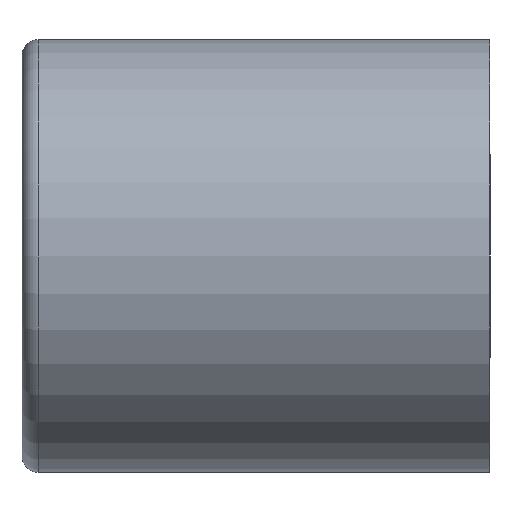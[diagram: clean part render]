
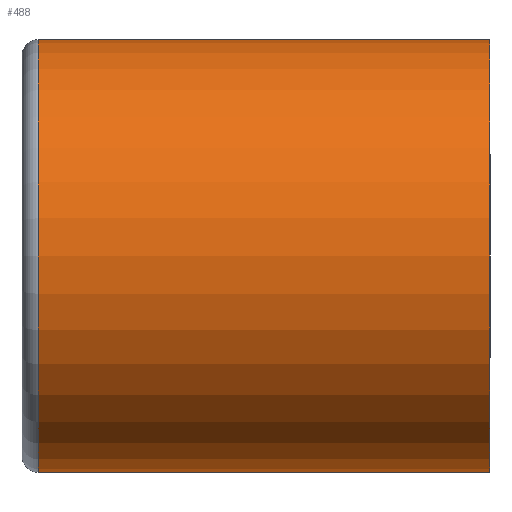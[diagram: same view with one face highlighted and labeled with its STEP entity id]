
A CAD part, front view. The second image highlights one B-rep face of the part: STEP entity #488.
In plain terms, the highlighted cylindrical face has radius 18.5 mm (diameter 37 mm), a partial arc.
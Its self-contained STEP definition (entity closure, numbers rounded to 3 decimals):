
#15 = EDGE_LOOP ( 'NONE', ( #415, #416, #417, #414 ) ) ;
#23 = VERTEX_POINT ( 'NONE', #1551 ) ;
#24 = VERTEX_POINT ( 'NONE', #1552 ) ;
#25 = VERTEX_POINT ( 'NONE', #1544 ) ;
#26 = VERTEX_POINT ( 'NONE', #1553 ) ;
#52 = FACE_OUTER_BOUND ( 'NONE', #15, .T. ) ;
#55 = AXIS2_PLACEMENT_3D ( 'NONE', #1904, #1905, #1906 ) ;
#56 = CYLINDRICAL_SURFACE ( 'NONE', #55, 18.5 ) ;
#78 = AXIS2_PLACEMENT_3D ( 'NONE', #1724, #1731, #1732 ) ;
#84 = VECTOR ( 'NONE', #1643, 1000. ) ;
#87 = VECTOR ( 'NONE', #1652, 1000. ) ;
#101 = AXIS2_PLACEMENT_3D ( 'NONE', #1814, #1815, #1816 ) ;
#307 = EDGE_CURVE ( 'NONE', #23, #24, #1641, .T. ) ;
#310 = EDGE_CURVE ( 'NONE', #26, #25, #1650, .T. ) ;
#322 = EDGE_CURVE ( 'NONE', #23, #26, #1596, .T. ) ;
#414 = ORIENTED_EDGE ( 'NONE', *, *, #474, .T. ) ;
#415 = ORIENTED_EDGE ( 'NONE', *, *, #307, .F. ) ;
#416 = ORIENTED_EDGE ( 'NONE', *, *, #322, .T. ) ;
#417 = ORIENTED_EDGE ( 'NONE', *, *, #310, .T. ) ;
#474 = EDGE_CURVE ( 'NONE', #25, #24, #1601, .T. ) ;
#488 = ADVANCED_FACE ( 'NONE', ( #52 ), #56, .T. ) ;
#1544 = CARTESIAN_POINT ( 'NONE',  ( 1.4, 0., 18.5 ) ) ;
#1551 = CARTESIAN_POINT ( 'NONE',  ( 40., 0., -18.5 ) ) ;
#1552 = CARTESIAN_POINT ( 'NONE',  ( 1.4, 0., -18.5 ) ) ;
#1553 = CARTESIAN_POINT ( 'NONE',  ( 40., 0., 18.5 ) ) ;
#1596 = CIRCLE ( 'NONE', #78, 18.5 ) ;
#1601 = CIRCLE ( 'NONE', #101, 18.5 ) ;
#1641 = LINE ( 'NONE', #1642, #84 ) ;
#1642 = CARTESIAN_POINT ( 'NONE',  ( 0., 0., -18.5 ) ) ;
#1643 = DIRECTION ( 'NONE',  ( -1., 0., 0. ) ) ;
#1650 = LINE ( 'NONE', #1651, #87 ) ;
#1651 = CARTESIAN_POINT ( 'NONE',  ( 0., 0., 18.5 ) ) ;
#1652 = DIRECTION ( 'NONE',  ( -1., 0., 0. ) ) ;
#1724 = CARTESIAN_POINT ( 'NONE',  ( 40., 0., 0. ) ) ;
#1731 = DIRECTION ( 'NONE',  ( -1., 0., 0. ) ) ;
#1732 = DIRECTION ( 'NONE',  ( 0., 0., 1. ) ) ;
#1814 = CARTESIAN_POINT ( 'NONE',  ( 1.4, 0., 0. ) ) ;
#1815 = DIRECTION ( 'NONE',  ( 1., 0., 0. ) ) ;
#1816 = DIRECTION ( 'NONE',  ( 0., 0., -1. ) ) ;
#1904 = CARTESIAN_POINT ( 'NONE',  ( 0., 0., 0. ) ) ;
#1905 = DIRECTION ( 'NONE',  ( -1., 0., 0. ) ) ;
#1906 = DIRECTION ( 'NONE',  ( 0., 0., 1. ) ) ;
